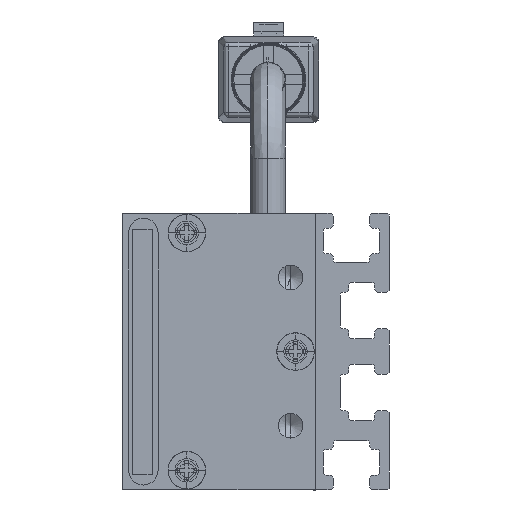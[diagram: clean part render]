
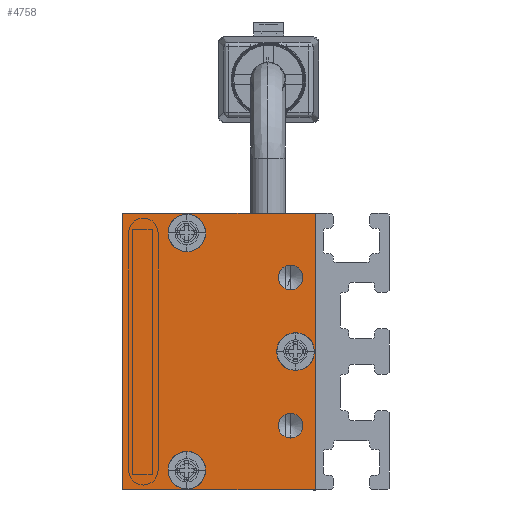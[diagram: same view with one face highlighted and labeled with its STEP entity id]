
A CAD part, left-side view. The second image highlights one B-rep face of the part: STEP entity #4758.
In plain terms, the highlighted planar face has unit normal (-1, 0, 0) as drawn and (0, 0, -1) by its records, which use the part's own axes.
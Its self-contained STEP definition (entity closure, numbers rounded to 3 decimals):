
#121 = EDGE_LOOP ( 'NONE', ( #2147, #5847 ) ) ;
#205 = DIRECTION ( 'NONE',  ( 0., 0., -1. ) ) ;
#384 = DIRECTION ( 'NONE',  ( -1., 0., 0. ) ) ;
#448 = AXIS2_PLACEMENT_3D ( 'NONE', #9143, #2973, #3048 ) ;
#592 = DIRECTION ( 'NONE',  ( 0., 0., -1. ) ) ;
#818 = EDGE_CURVE ( 'NONE', #13945, #5894, #12178, .T. ) ;
#908 = VERTEX_POINT ( 'NONE', #12592 ) ;
#922 = CARTESIAN_POINT ( 'NONE',  ( -10.1, 13., -2.5 ) ) ;
#930 = AXIS2_PLACEMENT_3D ( 'NONE', #3804, #6986, #3870 ) ;
#949 = FACE_OUTER_BOUND ( 'NONE', #9072, .T. ) ;
#1017 = AXIS2_PLACEMENT_3D ( 'NONE', #7029, #10310, #13430 ) ;
#1018 = VERTEX_POINT ( 'NONE', #8384 ) ;
#1020 = CIRCLE ( 'NONE', #13262, 1.25 ) ;
#1037 = CARTESIAN_POINT ( 'NONE',  ( -12., 13., -2.5 ) ) ;
#1087 = DIRECTION ( 'NONE',  ( 0., 0., -1. ) ) ;
#1121 = CIRCLE ( 'NONE', #10859, 1.9 ) ;
#1138 = DIRECTION ( 'NONE',  ( 0., 0., -1. ) ) ;
#1171 = DIRECTION ( 'NONE',  ( -1., 0., 0. ) ) ;
#1193 = CARTESIAN_POINT ( 'NONE',  ( -12., 13., -2.5 ) ) ;
#1253 = AXIS2_PLACEMENT_3D ( 'NONE', #6258, #1087, #13927 ) ;
#1330 = DIRECTION ( 'NONE',  ( 0., 1., 0. ) ) ;
#1548 = EDGE_CURVE ( 'NONE', #12405, #6118, #1020, .T. ) ;
#1714 = CARTESIAN_POINT ( 'NONE',  ( 13.9, 13., -2.5 ) ) ;
#1812 = VECTOR ( 'NONE', #1330, 1000. ) ;
#2147 = ORIENTED_EDGE ( 'NONE', *, *, #11282, .F. ) ;
#2272 = EDGE_CURVE ( 'NONE', #7830, #5918, #10787, .T. ) ;
#2281 = VECTOR ( 'NONE', #13465, 1000. ) ;
#2286 = ORIENTED_EDGE ( 'NONE', *, *, #10441, .F. ) ;
#2315 = DIRECTION ( 'NONE',  ( -1., 0., 0. ) ) ;
#2361 = DIRECTION ( 'NONE',  ( 0., 0., -1. ) ) ;
#2462 = CIRCLE ( 'NONE', #448, 1.25 ) ;
#2523 = CARTESIAN_POINT ( 'NONE',  ( 14., 19.5, -2.5 ) ) ;
#2665 = CARTESIAN_POINT ( 'NONE',  ( 6.25, 2.5, -2.5 ) ) ;
#2717 = VERTEX_POINT ( 'NONE', #4312 ) ;
#2852 = CARTESIAN_POINT ( 'NONE',  ( -6.25, 2.5, -2.5 ) ) ;
#2857 = LINE ( 'NONE', #3853, #4636 ) ;
#2926 = CIRCLE ( 'NONE', #11739, 1.9 ) ;
#2973 = DIRECTION ( 'NONE',  ( 0., 0., -1. ) ) ;
#3048 = DIRECTION ( 'NONE',  ( -1., 0., 0. ) ) ;
#3364 = FACE_BOUND ( 'NONE', #121, .T. ) ;
#3493 = VECTOR ( 'NONE', #12320, 1000. ) ;
#3531 = LINE ( 'NONE', #2523, #1812 ) ;
#3547 = DIRECTION ( 'NONE',  ( -1., 0., 0. ) ) ;
#3804 = CARTESIAN_POINT ( 'NONE',  ( 0., 2., -2.5 ) ) ;
#3853 = CARTESIAN_POINT ( 'NONE',  ( -14., 19.5, -2.5 ) ) ;
#3870 = DIRECTION ( 'NONE',  ( -1., 0., 0. ) ) ;
#4007 = EDGE_CURVE ( 'NONE', #13276, #908, #10750, .T. ) ;
#4023 = EDGE_CURVE ( 'NONE', #11368, #13945, #2857, .T. ) ;
#4041 = AXIS2_PLACEMENT_3D ( 'NONE', #6952, #11212, #7871 ) ;
#4052 = ORIENTED_EDGE ( 'NONE', *, *, #12380, .F. ) ;
#4184 = CARTESIAN_POINT ( 'NONE',  ( 7.5, 2.5, -2.5 ) ) ;
#4312 = CARTESIAN_POINT ( 'NONE',  ( -13.9, 13., -2.5 ) ) ;
#4427 = EDGE_CURVE ( 'NONE', #6805, #2717, #13022, .T. ) ;
#4513 = DIRECTION ( 'NONE',  ( -1., 0., 0. ) ) ;
#4619 = CARTESIAN_POINT ( 'NONE',  ( 12., 13., -2.5 ) ) ;
#4636 = VECTOR ( 'NONE', #12366, 1000. ) ;
#4758 = ADVANCED_FACE ( 'NONE', ( #5348, #10669, #3364, #9525, #7663, #949 ), #12853, .T. ) ;
#4803 = EDGE_LOOP ( 'NONE', ( #4052, #10473 ) ) ;
#5170 = CARTESIAN_POINT ( 'NONE',  ( 14., 0., -2.5 ) ) ;
#5250 = ORIENTED_EDGE ( 'NONE', *, *, #12192, .F. ) ;
#5348 = FACE_BOUND ( 'NONE', #8545, .T. ) ;
#5777 = EDGE_CURVE ( 'NONE', #5894, #7067, #9129, .T. ) ;
#5815 = ORIENTED_EDGE ( 'NONE', *, *, #818, .F. ) ;
#5847 = ORIENTED_EDGE ( 'NONE', *, *, #10927, .F. ) ;
#5894 = VERTEX_POINT ( 'NONE', #10487 ) ;
#5918 = VERTEX_POINT ( 'NONE', #9694 ) ;
#6034 = CARTESIAN_POINT ( 'NONE',  ( -7.5, 2.5, -2.5 ) ) ;
#6118 = VERTEX_POINT ( 'NONE', #2665 ) ;
#6123 = CIRCLE ( 'NONE', #930, 1.9 ) ;
#6258 = CARTESIAN_POINT ( 'NONE',  ( 0., 0., -2.5 ) ) ;
#6416 = CARTESIAN_POINT ( 'NONE',  ( -1.9, 2., -2.5 ) ) ;
#6563 = EDGE_LOOP ( 'NONE', ( #9748, #13794 ) ) ;
#6805 = VERTEX_POINT ( 'NONE', #922 ) ;
#6952 = CARTESIAN_POINT ( 'NONE',  ( 0., 2., -2.5 ) ) ;
#6986 = DIRECTION ( 'NONE',  ( 0., 0., -1. ) ) ;
#7029 = CARTESIAN_POINT ( 'NONE',  ( -7.5, 2.5, -2.5 ) ) ;
#7067 = VERTEX_POINT ( 'NONE', #5170 ) ;
#7655 = CIRCLE ( 'NONE', #4041, 1.9 ) ;
#7663 = FACE_BOUND ( 'NONE', #6563, .T. ) ;
#7830 = VERTEX_POINT ( 'NONE', #1714 ) ;
#7871 = DIRECTION ( 'NONE',  ( -1., 0., 0. ) ) ;
#8384 = CARTESIAN_POINT ( 'NONE',  ( 1.9, 2., -2.5 ) ) ;
#8448 = ORIENTED_EDGE ( 'NONE', *, *, #2272, .F. ) ;
#8545 = EDGE_LOOP ( 'NONE', ( #2286, #8448 ) ) ;
#8548 = CIRCLE ( 'NONE', #12447, 1.25 ) ;
#8909 = CARTESIAN_POINT ( 'NONE',  ( -14., 0., -2.5 ) ) ;
#8927 = DIRECTION ( 'NONE',  ( 0., 0., -1. ) ) ;
#9072 = EDGE_LOOP ( 'NONE', ( #10964, #13259, #5815, #9379 ) ) ;
#9129 = LINE ( 'NONE', #9407, #2281 ) ;
#9143 = CARTESIAN_POINT ( 'NONE',  ( 7.5, 2.5, -2.5 ) ) ;
#9177 = VERTEX_POINT ( 'NONE', #6416 ) ;
#9379 = ORIENTED_EDGE ( 'NONE', *, *, #4023, .F. ) ;
#9407 = CARTESIAN_POINT ( 'NONE',  ( 14., 0., -2.5 ) ) ;
#9525 = FACE_BOUND ( 'NONE', #13940, .T. ) ;
#9694 = CARTESIAN_POINT ( 'NONE',  ( 10.1, 13., -2.5 ) ) ;
#9729 = CARTESIAN_POINT ( 'NONE',  ( 14., 19.5, -2.5 ) ) ;
#9748 = ORIENTED_EDGE ( 'NONE', *, *, #11782, .F. ) ;
#9906 = CARTESIAN_POINT ( 'NONE',  ( 12., 13., -2.5 ) ) ;
#10310 = DIRECTION ( 'NONE',  ( 0., 0., -1. ) ) ;
#10316 = AXIS2_PLACEMENT_3D ( 'NONE', #1037, #10883, #1171 ) ;
#10340 = AXIS2_PLACEMENT_3D ( 'NONE', #9906, #2361, #4513 ) ;
#10441 = EDGE_CURVE ( 'NONE', #5918, #7830, #2926, .T. ) ;
#10473 = ORIENTED_EDGE ( 'NONE', *, *, #4427, .F. ) ;
#10487 = CARTESIAN_POINT ( 'NONE',  ( -14., 0., -2.5 ) ) ;
#10669 = FACE_BOUND ( 'NONE', #4803, .T. ) ;
#10750 = CIRCLE ( 'NONE', #1017, 1.25 ) ;
#10787 = CIRCLE ( 'NONE', #10340, 1.9 ) ;
#10839 = CARTESIAN_POINT ( 'NONE',  ( 8.75, 2.5, -2.5 ) ) ;
#10859 = AXIS2_PLACEMENT_3D ( 'NONE', #1193, #205, #2315 ) ;
#10883 = DIRECTION ( 'NONE',  ( 0., 0., -1. ) ) ;
#10927 = EDGE_CURVE ( 'NONE', #1018, #9177, #7655, .T. ) ;
#10964 = ORIENTED_EDGE ( 'NONE', *, *, #13882, .F. ) ;
#11212 = DIRECTION ( 'NONE',  ( 0., 0., -1. ) ) ;
#11215 = CARTESIAN_POINT ( 'NONE',  ( -14., 19.5, -2.5 ) ) ;
#11282 = EDGE_CURVE ( 'NONE', #9177, #1018, #6123, .T. ) ;
#11368 = VERTEX_POINT ( 'NONE', #9729 ) ;
#11739 = AXIS2_PLACEMENT_3D ( 'NONE', #4619, #8927, #3547 ) ;
#11782 = EDGE_CURVE ( 'NONE', #908, #13276, #8548, .T. ) ;
#12178 = LINE ( 'NONE', #8909, #3493 ) ;
#12192 = EDGE_CURVE ( 'NONE', #6118, #12405, #2462, .T. ) ;
#12320 = DIRECTION ( 'NONE',  ( 0., -1., 0. ) ) ;
#12366 = DIRECTION ( 'NONE',  ( -1., 0., 0. ) ) ;
#12380 = EDGE_CURVE ( 'NONE', #2717, #6805, #1121, .T. ) ;
#12405 = VERTEX_POINT ( 'NONE', #10839 ) ;
#12447 = AXIS2_PLACEMENT_3D ( 'NONE', #6034, #592, #384 ) ;
#12592 = CARTESIAN_POINT ( 'NONE',  ( -8.75, 2.5, -2.5 ) ) ;
#12831 = DIRECTION ( 'NONE',  ( -1., 0., 0. ) ) ;
#12853 = PLANE ( 'NONE',  #1253 ) ;
#12884 = ORIENTED_EDGE ( 'NONE', *, *, #1548, .F. ) ;
#13022 = CIRCLE ( 'NONE', #10316, 1.9 ) ;
#13259 = ORIENTED_EDGE ( 'NONE', *, *, #5777, .F. ) ;
#13262 = AXIS2_PLACEMENT_3D ( 'NONE', #4184, #1138, #12831 ) ;
#13276 = VERTEX_POINT ( 'NONE', #2852 ) ;
#13430 = DIRECTION ( 'NONE',  ( -1., 0., 0. ) ) ;
#13465 = DIRECTION ( 'NONE',  ( 1., 0., 0. ) ) ;
#13794 = ORIENTED_EDGE ( 'NONE', *, *, #4007, .F. ) ;
#13882 = EDGE_CURVE ( 'NONE', #7067, #11368, #3531, .T. ) ;
#13927 = DIRECTION ( 'NONE',  ( -1., 0., 0. ) ) ;
#13940 = EDGE_LOOP ( 'NONE', ( #5250, #12884 ) ) ;
#13945 = VERTEX_POINT ( 'NONE', #11215 ) ;
